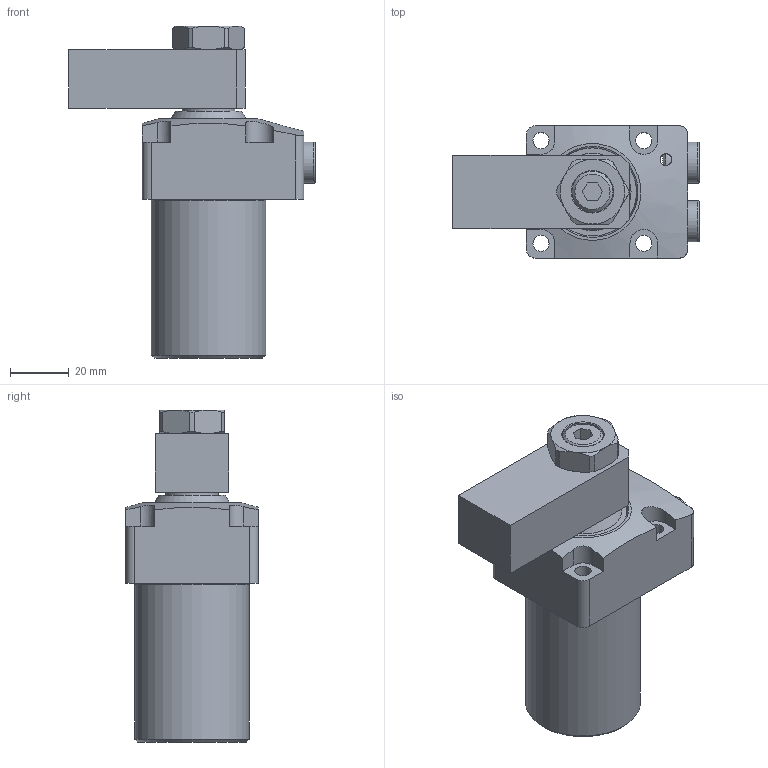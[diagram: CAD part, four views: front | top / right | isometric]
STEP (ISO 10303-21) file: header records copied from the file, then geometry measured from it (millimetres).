
FILE_DESCRIPTION(/* description */ (''),/* implementation_level */ '2;1');
FILE_NAME(/* name */ 'TRC02-L(带锥套-压板).stp',/* time_stamp */ '2025-07-21T11:19:34+08:00',/* author */ (''),/* organization */ (''),/* preprocessor_version */ 'ST-DEVELOPER v16.7',/* originating_system */ 'SIEMENS PLM Software NX 12.0',/* authorisation */ '');
FILE_SCHEMA (('AP203_CONFIGURATION_CONTROLLED_3D_DESIGN_OF_MECHANICAL_PARTS_AND_ASSEMBLIES_MIM_LF { 1 0 10303 403 2 1 2}'));
Length unit declared in the file: millimetre
Products named in the file (1): 123FE38B2C6q4k7
Bounding box: 83.8 x 45 x 113 mm (x, y, z)
Volume: 148451.2 mm3; surface area: 35267.8 mm2
Topology: 6 solids, 7 shells, 169 faces, 394 edges, 253 vertices
Faces by surface type: plane 82, cylinder 48, cone 32, torus 6, sphere 1
Full cylindrical faces by diameter (mm): 4 x2, 5.5 x4, 8.3 x2, 8.7 x2, 9.728 x4, 10.2 x2, 12 x1, 14 x4, 17.5 x2, 18 x2, 20 x1, 30 x1, 39 x1
Entity records: 6185 total; most frequent: CARTESIAN_POINT 1372, DIRECTION 724, ORIENTED_EDGE 664, EDGE_CURVE 332, AXIS2_PLACEMENT_3D 291, EDGE_LOOP 247, VERTEX_POINT 239, ADVANCED_FACE 169
